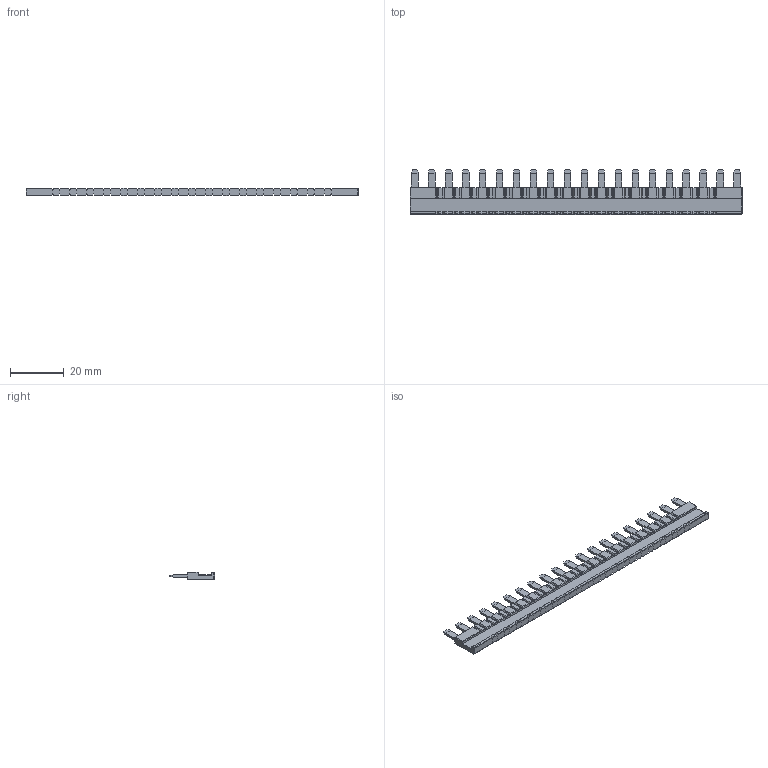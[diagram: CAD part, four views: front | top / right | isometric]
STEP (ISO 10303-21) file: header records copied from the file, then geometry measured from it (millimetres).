
FILE_DESCRIPTION(('FreeCAD Model'),'2;1');
FILE_NAME('Open CASCADE Shape Model','2023-03-08T08:14:44',(''),(''), 'Open CASCADE STEP processor 7.6','FreeCAD','Unknown');
FILE_SCHEMA(('AUTOMOTIVE_DESIGN { 1 0 10303 214 1 1 1 1 }'));
Length unit declared in the file: millimetre
Products named in the file (3): Unnamed; 41F-J1B; 41F-J1B001
Assembly tree (3 placements, depth 3):
  Unnamed
    41F-J1B
    41F-J1B001
      41F-J1B
Bounding box: 123.2 x 16.7 x 2.8 mm (x, y, z)
Surface area: 11202.9 mm2
Topology: 4 solids, 4 shells, 1348 faces, 11924 edges, 34384 vertices
Faces by surface type: plane 956, cylinder 376, sphere 16
Entity records: 108032 total; most frequent: CARTESIAN_POINT 37076, DIRECTION 11747, LINE 8155, VECTOR 8155, GEOMETRIC_CURVE_SET 3973, ORIENTED_EDGE 3964, PCURVE 3964, DEFINITIONAL_REPRESENTATION 3964
